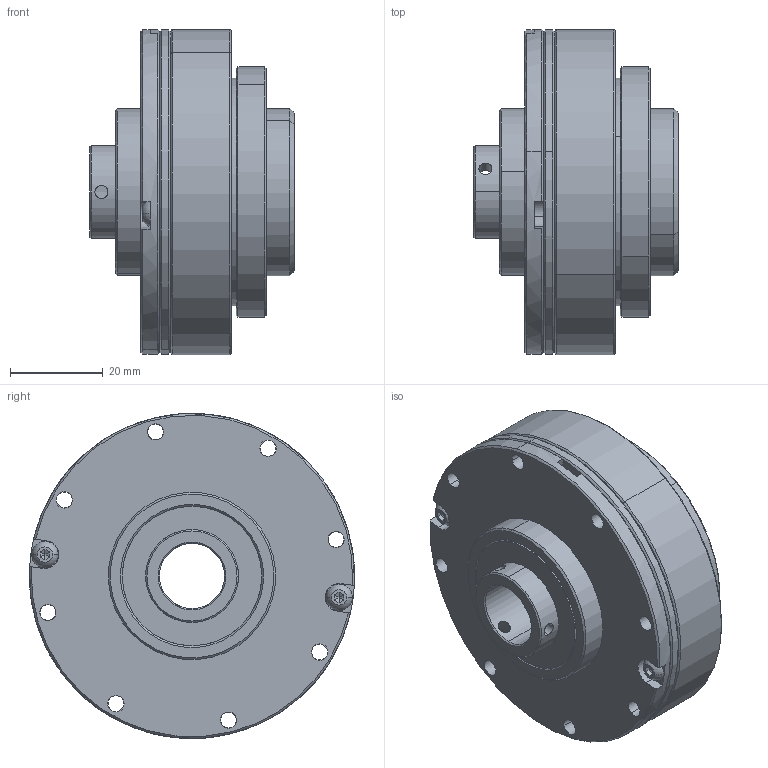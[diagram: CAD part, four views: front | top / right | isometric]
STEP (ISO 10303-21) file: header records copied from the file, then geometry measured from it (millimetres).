
FILE_DESCRIPTION (( 'STEP AP203' ), '1' );
FILE_NAME ('LHD-14-XXX-C-III.STEP', '2016-08-26T06:38:19', ( 'Windows 蚚誧' ), ( 'Users' ), 'SwSTEP 2.0', 'SolidWorks 2013', '' );
FILE_SCHEMA (( 'CONFIG_CONTROL_DESIGN' ));
Length unit declared in the file: millimetre
Products named in the file (17): 内六角圆柱头螺钉M2 x 12_内六角圆柱头螺钉M2 x 12; LHD-14-XXX-P08-III; 内六角圆柱头螺钉M2 x 8_内六角圆柱头螺钉M2 x 8; LHD-14-XXX-P06-III; LHD-14-XXX-C-III; LHD-14-XXX-P01-III; LHD-14-XXX-P03-III; LHD-14-XXX-P04-III; RZC-14内外圈+钢球; 15Z-20304.5; RZC-14悵厥殤; 15Z-49585; 柔性轴承RZC-14; 囀鞠褒攫芛蹟隊M3X8_GB_SOCKET_TYPE7 M3X6-N; DB-14-C-III; LHD-14-XXX-P02-III; 6804zz
Assembly tree (33 placements, depth 3):
  LHD-14-XXX-C-III
    LHD-14-XXX-P03-III
    柔性轴承RZC-14
      RZC-14内外圈+钢球
      RZC-14悵厥殤
    DB-14-C-III
    6804zz  x2
    LHD-14-XXX-P08-III
    LHD-14-XXX-P06-III
    LHD-14-XXX-P01-III
    LHD-14-XXX-P04-III
    15Z-20304.5  x2
    15Z-49585
    囀鞠褒攫芛蹟隊M3X8_GB_SOCKET_TYPE7 M3X6-N  x2
    LHD-14-XXX-P02-III
    内六角圆柱头螺钉M2 x 12_内六角圆柱头螺钉M2 x 12  x8
    内六角圆柱头螺钉M2 x 8_内六角圆柱头螺钉M2 x 8  x8
Bounding box: 44 x 70 x 69.99 mm (x, y, z)
Volume: 78867.5 mm3; surface area: 73511.1 mm2
Topology: 101 solids, 101 shells, 1356 faces, 3268 edges, 2019 vertices
Faces by surface type: cylinder 487, plane 413, cone 180, torus 142, sphere 134
Entity records: 27536 total; most frequent: DIRECTION 4967, CARTESIAN_POINT 4408, ORIENTED_EDGE 3858, AXIS2_PLACEMENT_3D 2146, EDGE_CURVE 1929, VERTEX_POINT 1249, CIRCLE 1234, EDGE_LOOP 1118
